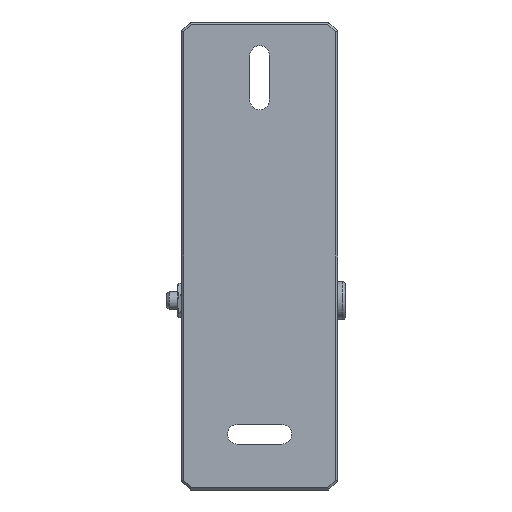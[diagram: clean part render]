
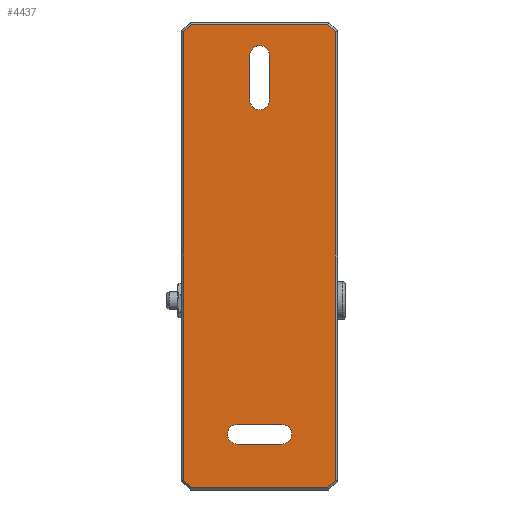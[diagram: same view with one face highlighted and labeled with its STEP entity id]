
A CAD part, front view. The second image highlights one B-rep face of the part: STEP entity #4437.
In plain terms, the highlighted planar face has unit normal (0, -1, 0).
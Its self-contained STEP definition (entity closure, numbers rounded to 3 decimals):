
#55 = VECTOR ( 'NONE', #430, 1000. ) ;
#67 = EDGE_CURVE ( 'NONE', #9954, #14519, #15768, .T. ) ;
#131 = CIRCLE ( 'NONE', #2078, 2.2 ) ;
#366 = LINE ( 'NONE', #8141, #3474 ) ;
#372 = DIRECTION ( 'NONE',  ( 0.707, 0., 0.707 ) ) ;
#430 = DIRECTION ( 'NONE',  ( -0.707, 0., -0.707 ) ) ;
#744 = CARTESIAN_POINT ( 'NONE',  ( -5., 0., -37.8 ) ) ;
#777 = LINE ( 'NONE', #1429, #14042 ) ;
#819 = EDGE_CURVE ( 'NONE', #16614, #15231, #8102, .T. ) ;
#863 = ORIENTED_EDGE ( 'NONE', *, *, #12905, .T. ) ;
#906 = LINE ( 'NONE', #2826, #4427 ) ;
#908 = CARTESIAN_POINT ( 'NONE',  ( 15.293, 0., 52. ) ) ;
#995 = DIRECTION ( 'NONE',  ( 0., 1., 0. ) ) ;
#1036 = ORIENTED_EDGE ( 'NONE', *, *, #67, .T. ) ;
#1429 = CARTESIAN_POINT ( 'NONE',  ( -17., 0., 0. ) ) ;
#1595 = VECTOR ( 'NONE', #16758, 1000. ) ;
#1781 = VECTOR ( 'NONE', #372, 1000. ) ;
#1785 = VECTOR ( 'NONE', #4933, 1000. ) ;
#1867 = ORIENTED_EDGE ( 'NONE', *, *, #11273, .T. ) ;
#2010 = CARTESIAN_POINT ( 'NONE',  ( 0., 0., 45. ) ) ;
#2078 = AXIS2_PLACEMENT_3D ( 'NONE', #4826, #14084, #6156 ) ;
#2109 = EDGE_CURVE ( 'NONE', #15231, #8999, #11753, .T. ) ;
#2652 = LINE ( 'NONE', #3516, #16360 ) ;
#2662 = ORIENTED_EDGE ( 'NONE', *, *, #9849, .T. ) ;
#2826 = CARTESIAN_POINT ( 'NONE',  ( 0., 0., -42.2 ) ) ;
#2891 = ORIENTED_EDGE ( 'NONE', *, *, #12678, .T. ) ;
#2913 = CARTESIAN_POINT ( 'NONE',  ( 0., 0., 45. ) ) ;
#2993 = AXIS2_PLACEMENT_3D ( 'NONE', #8990, #995, #10295 ) ;
#3099 = CARTESIAN_POINT ( 'NONE',  ( -17., 0., 50.293 ) ) ;
#3358 = DIRECTION ( 'NONE',  ( 0., 0., 1. ) ) ;
#3465 = ORIENTED_EDGE ( 'NONE', *, *, #13369, .T. ) ;
#3474 = VECTOR ( 'NONE', #5444, 1000. ) ;
#3516 = CARTESIAN_POINT ( 'NONE',  ( 0., 0., -37.8 ) ) ;
#3529 = CARTESIAN_POINT ( 'NONE',  ( 0., 0., 52. ) ) ;
#3704 = CARTESIAN_POINT ( 'NONE',  ( 2.2, 0., 45. ) ) ;
#3766 = AXIS2_PLACEMENT_3D ( 'NONE', #14135, #6213, #15485 ) ;
#3948 = ORIENTED_EDGE ( 'NONE', *, *, #7155, .T. ) ;
#4094 = DIRECTION ( 'NONE',  ( 0., 0., -1. ) ) ;
#4236 = DIRECTION ( 'NONE',  ( 0., 0., 1. ) ) ;
#4306 = ORIENTED_EDGE ( 'NONE', *, *, #10864, .T. ) ;
#4427 = VECTOR ( 'NONE', #12113, 1000. ) ;
#4437 = ADVANCED_FACE ( 'NONE', ( #11891, #8388, #5431 ), #5542, .T. ) ;
#4502 = EDGE_CURVE ( 'NONE', #5297, #7730, #11055, .T. ) ;
#4554 = CIRCLE ( 'NONE', #7934, 2.2 ) ;
#4673 = VERTEX_POINT ( 'NONE', #14093 ) ;
#4795 = ORIENTED_EDGE ( 'NONE', *, *, #9164, .T. ) ;
#4826 = CARTESIAN_POINT ( 'NONE',  ( -5., 0., -40. ) ) ;
#4933 = DIRECTION ( 'NONE',  ( 0., 0., 1. ) ) ;
#5090 = ORIENTED_EDGE ( 'NONE', *, *, #5800, .T. ) ;
#5108 = VECTOR ( 'NONE', #10030, 1000. ) ;
#5297 = VERTEX_POINT ( 'NONE', #10025 ) ;
#5319 = LINE ( 'NONE', #16213, #1781 ) ;
#5431 = FACE_OUTER_BOUND ( 'NONE', #15250, .T. ) ;
#5444 = DIRECTION ( 'NONE',  ( 0., 0., 1. ) ) ;
#5542 = PLANE ( 'NONE',  #14232 ) ;
#5643 = VERTEX_POINT ( 'NONE', #7113 ) ;
#5800 = EDGE_CURVE ( 'NONE', #4673, #5643, #10002, .T. ) ;
#5812 = ORIENTED_EDGE ( 'NONE', *, *, #819, .T. ) ;
#6156 = DIRECTION ( 'NONE',  ( 0., 0., 1. ) ) ;
#6213 = DIRECTION ( 'NONE',  ( 0., 1., 0. ) ) ;
#6264 = ORIENTED_EDGE ( 'NONE', *, *, #7599, .T. ) ;
#6383 = VERTEX_POINT ( 'NONE', #3704 ) ;
#6647 = AXIS2_PLACEMENT_3D ( 'NONE', #2010, #11305, #3358 ) ;
#6836 = CARTESIAN_POINT ( 'NONE',  ( 5., 0., -37.8 ) ) ;
#6896 = CARTESIAN_POINT ( 'NONE',  ( 0., 0., 0. ) ) ;
#7113 = CARTESIAN_POINT ( 'NONE',  ( -2.2, 0., 35. ) ) ;
#7155 = EDGE_CURVE ( 'NONE', #13401, #15397, #2652, .T. ) ;
#7579 = CARTESIAN_POINT ( 'NONE',  ( -5., 0., -42.2 ) ) ;
#7594 = EDGE_CURVE ( 'NONE', #7730, #16614, #777, .T. ) ;
#7599 = EDGE_CURVE ( 'NONE', #8114, #9954, #366, .T. ) ;
#7730 = VERTEX_POINT ( 'NONE', #3099 ) ;
#7934 = AXIS2_PLACEMENT_3D ( 'NONE', #2913, #12195, #4236 ) ;
#7979 = CARTESIAN_POINT ( 'NONE',  ( 5., 0., -42.2 ) ) ;
#7995 = CARTESIAN_POINT ( 'NONE',  ( -17., 0., -50.293 ) ) ;
#8102 = LINE ( 'NONE', #8533, #14702 ) ;
#8108 = EDGE_CURVE ( 'NONE', #12860, #9610, #4554, .T. ) ;
#8114 = VERTEX_POINT ( 'NONE', #16147 ) ;
#8133 = ORIENTED_EDGE ( 'NONE', *, *, #14269, .T. ) ;
#8141 = CARTESIAN_POINT ( 'NONE',  ( 17., 0., 0. ) ) ;
#8240 = DIRECTION ( 'NONE',  ( 0., 0., -1. ) ) ;
#8388 = FACE_BOUND ( 'NONE', #16566, .T. ) ;
#8533 = CARTESIAN_POINT ( 'NONE',  ( -17., 0., -50.293 ) ) ;
#8746 = VECTOR ( 'NONE', #15790, 1000. ) ;
#8886 = ORIENTED_EDGE ( 'NONE', *, *, #7594, .T. ) ;
#8990 = CARTESIAN_POINT ( 'NONE',  ( 5., 0., -40. ) ) ;
#8999 = VERTEX_POINT ( 'NONE', #10903 ) ;
#9059 = CARTESIAN_POINT ( 'NONE',  ( -15.293, 0., -52. ) ) ;
#9064 = VECTOR ( 'NONE', #12565, 1000. ) ;
#9164 = EDGE_CURVE ( 'NONE', #9610, #6383, #11172, .T. ) ;
#9301 = LINE ( 'NONE', #14192, #1785 ) ;
#9610 = VERTEX_POINT ( 'NONE', #16500 ) ;
#9639 = ORIENTED_EDGE ( 'NONE', *, *, #8108, .T. ) ;
#9849 = EDGE_CURVE ( 'NONE', #14519, #5297, #15707, .T. ) ;
#9954 = VERTEX_POINT ( 'NONE', #15636 ) ;
#10002 = CIRCLE ( 'NONE', #3766, 2.2 ) ;
#10025 = CARTESIAN_POINT ( 'NONE',  ( -15.293, 0., 52. ) ) ;
#10030 = DIRECTION ( 'NONE',  ( 1., 0., 0. ) ) ;
#10295 = DIRECTION ( 'NONE',  ( 0., 0., 1. ) ) ;
#10864 = EDGE_CURVE ( 'NONE', #5643, #12860, #9301, .T. ) ;
#10903 = CARTESIAN_POINT ( 'NONE',  ( 15.293, 0., -52. ) ) ;
#11055 = LINE ( 'NONE', #15042, #55 ) ;
#11172 = CIRCLE ( 'NONE', #6647, 2.2 ) ;
#11273 = EDGE_CURVE ( 'NONE', #15397, #14176, #13189, .T. ) ;
#11305 = DIRECTION ( 'NONE',  ( 0., 1., 0. ) ) ;
#11753 = LINE ( 'NONE', #15273, #5108 ) ;
#11891 = FACE_BOUND ( 'NONE', #14635, .T. ) ;
#12113 = DIRECTION ( 'NONE',  ( -1., 0., 0. ) ) ;
#12195 = DIRECTION ( 'NONE',  ( 0., 1., 0. ) ) ;
#12376 = DIRECTION ( 'NONE',  ( 0.707, 0., -0.707 ) ) ;
#12565 = DIRECTION ( 'NONE',  ( 0., 0., -1. ) ) ;
#12678 = EDGE_CURVE ( 'NONE', #8999, #8114, #5319, .T. ) ;
#12860 = VERTEX_POINT ( 'NONE', #13960 ) ;
#12905 = EDGE_CURVE ( 'NONE', #15737, #13401, #131, .T. ) ;
#13118 = CARTESIAN_POINT ( 'NONE',  ( 17., 0., 50.293 ) ) ;
#13189 = CIRCLE ( 'NONE', #2993, 2.2 ) ;
#13369 = EDGE_CURVE ( 'NONE', #6383, #4673, #16103, .T. ) ;
#13401 = VERTEX_POINT ( 'NONE', #744 ) ;
#13881 = ORIENTED_EDGE ( 'NONE', *, *, #2109, .T. ) ;
#13897 = CARTESIAN_POINT ( 'NONE',  ( 2.2, 0., 0. ) ) ;
#13960 = CARTESIAN_POINT ( 'NONE',  ( -2.2, 0., 45. ) ) ;
#14042 = VECTOR ( 'NONE', #4094, 1000. ) ;
#14084 = DIRECTION ( 'NONE',  ( 0., 1., 0. ) ) ;
#14093 = CARTESIAN_POINT ( 'NONE',  ( 2.2, 0., 35. ) ) ;
#14135 = CARTESIAN_POINT ( 'NONE',  ( 0., 0., 35. ) ) ;
#14176 = VERTEX_POINT ( 'NONE', #7979 ) ;
#14192 = CARTESIAN_POINT ( 'NONE',  ( -2.2, 0., 0. ) ) ;
#14232 = AXIS2_PLACEMENT_3D ( 'NONE', #6896, #16166, #8240 ) ;
#14269 = EDGE_CURVE ( 'NONE', #14176, #15737, #906, .T. ) ;
#14345 = ORIENTED_EDGE ( 'NONE', *, *, #4502, .T. ) ;
#14519 = VERTEX_POINT ( 'NONE', #908 ) ;
#14635 = EDGE_LOOP ( 'NONE', ( #3948, #1867, #8133, #863 ) ) ;
#14702 = VECTOR ( 'NONE', #12376, 1000. ) ;
#15042 = CARTESIAN_POINT ( 'NONE',  ( -15.293, 0., 52. ) ) ;
#15231 = VERTEX_POINT ( 'NONE', #9059 ) ;
#15250 = EDGE_LOOP ( 'NONE', ( #1036, #2662, #14345, #8886, #5812, #13881, #2891, #6264 ) ) ;
#15273 = CARTESIAN_POINT ( 'NONE',  ( 0., 0., -52. ) ) ;
#15397 = VERTEX_POINT ( 'NONE', #6836 ) ;
#15451 = DIRECTION ( 'NONE',  ( 1., 0., 0. ) ) ;
#15485 = DIRECTION ( 'NONE',  ( 0., 0., 1. ) ) ;
#15636 = CARTESIAN_POINT ( 'NONE',  ( 17., 0., 50.293 ) ) ;
#15707 = LINE ( 'NONE', #3529, #1595 ) ;
#15737 = VERTEX_POINT ( 'NONE', #7579 ) ;
#15768 = LINE ( 'NONE', #13118, #8746 ) ;
#15790 = DIRECTION ( 'NONE',  ( -0.707, 0., 0.707 ) ) ;
#16103 = LINE ( 'NONE', #13897, #9064 ) ;
#16147 = CARTESIAN_POINT ( 'NONE',  ( 17., 0., -50.293 ) ) ;
#16166 = DIRECTION ( 'NONE',  ( 0., -1., 0. ) ) ;
#16213 = CARTESIAN_POINT ( 'NONE',  ( 15.293, 0., -52. ) ) ;
#16360 = VECTOR ( 'NONE', #15451, 1000. ) ;
#16500 = CARTESIAN_POINT ( 'NONE',  ( 0., 0., 47.2 ) ) ;
#16566 = EDGE_LOOP ( 'NONE', ( #9639, #4795, #3465, #5090, #4306 ) ) ;
#16614 = VERTEX_POINT ( 'NONE', #7995 ) ;
#16758 = DIRECTION ( 'NONE',  ( -1., 0., 0. ) ) ;
